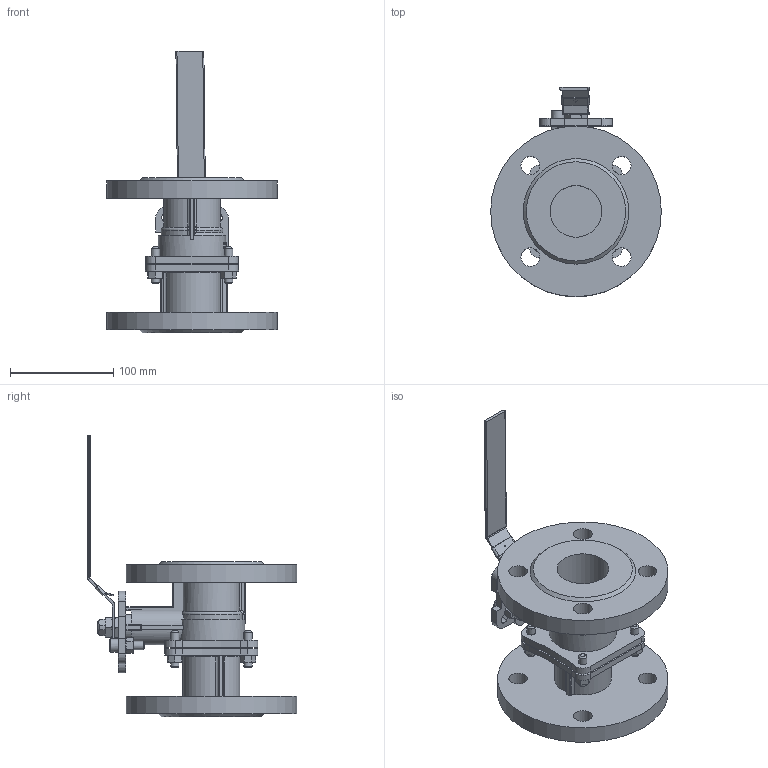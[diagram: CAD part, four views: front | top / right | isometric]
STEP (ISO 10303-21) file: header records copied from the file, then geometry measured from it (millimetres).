
FILE_DESCRIPTION(('STEP AP242'), '1');
FILE_NAME('BV3232P(2pc)-FP-F-ISO-H Êðàí øàðîâîé DN.ru Äó50 Ðó40', '', ('UNSPECIFIED'), ('UNSPECIFIED'), 'C3D Converter', 'C3D Toolkit', '');
FILE_SCHEMA(('AP242_MANAGED_MODEL_BASED_3D_ENGINEERING_MIM_LF { 1 0 10303 442 1 1 4 }'));
Length unit declared in the file: millimetre
Products named in the file (1): BV3232P(2pc)-FP-F-ISO-H
Bounding box: 165 x 202.5 x 272.56 mm (x, y, z)
Volume: 909450.9 mm3; surface area: 209358.6 mm2
Topology: 1 solids, 3 shells, 693 faces, 1737 edges, 1085 vertices
Faces by surface type: plane 364, cylinder 158, cone 100, bspline 54, torus 11, sphere 6
Full cylindrical faces by diameter (mm): 1 x1, 5 x1, 8 x14, 13 x1, 18 x8, 25 x2, 30 x2, 50 x2, 58 x1, 75 x1, 165 x2
Entity records: 33725 total; most frequent: CARTESIAN_POINT 15066, ORIENTED_EDGE 3334, DIRECTION 3079, EDGE_CURVE 1667, AXIS2_PLACEMENT_3D 1112, VERTEX_POINT 1076, LINE 855, VECTOR 855
